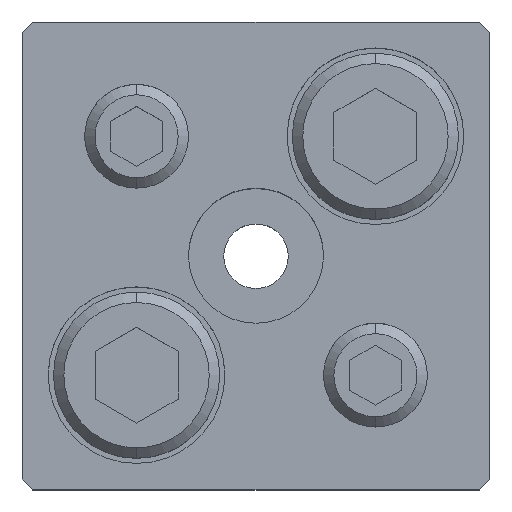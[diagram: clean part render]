
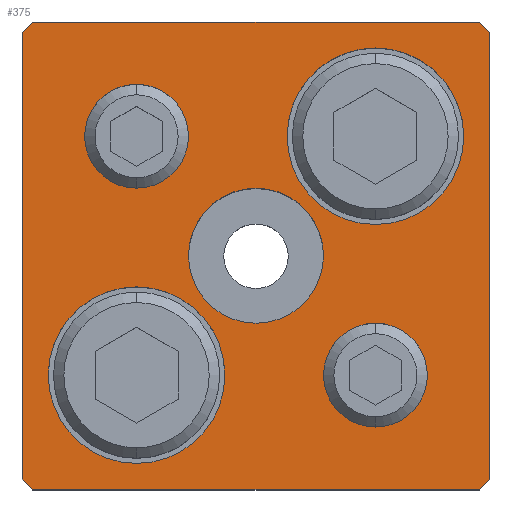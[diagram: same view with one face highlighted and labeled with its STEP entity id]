
A CAD part, top view. The second image highlights one B-rep face of the part: STEP entity #375.
In plain terms, the highlighted planar face has unit normal (0, 0, 1).
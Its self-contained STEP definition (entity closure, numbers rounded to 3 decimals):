
#139=PLANE('',#2873);
#201=FACE_BOUND('',#707,.T.);
#202=FACE_BOUND('',#708,.T.);
#203=FACE_BOUND('',#709,.T.);
#204=FACE_BOUND('',#710,.T.);
#205=FACE_BOUND('',#711,.T.);
#206=FACE_BOUND('',#712,.T.);
#375=ADVANCED_FACE('',(#201,#202,#203,#204,#205,#206),#139,.T.);
#707=EDGE_LOOP('',(#1261,#1262,#1263,#1264,#1265,#1266,#1267,#1268));
#708=EDGE_LOOP('',(#1269,#1270));
#709=EDGE_LOOP('',(#1271,#1272));
#710=EDGE_LOOP('',(#1273,#1274));
#711=EDGE_LOOP('',(#1275,#1276));
#712=EDGE_LOOP('',(#1277,#1278));
#872=CIRCLE('',#2831,5.);
#874=CIRCLE('',#2834,5.);
#876=CIRCLE('',#2837,5.);
#878=CIRCLE('',#2840,5.);
#896=CIRCLE('',#2867,8.5);
#897=CIRCLE('',#2868,8.5);
#898=CIRCLE('',#2869,8.5);
#899=CIRCLE('',#2870,8.5);
#900=CIRCLE('',#2871,6.5);
#901=CIRCLE('',#2872,6.5);
#1261=ORIENTED_EDGE('',*,*,#2078,.T.);
#1262=ORIENTED_EDGE('',*,*,#2079,.T.);
#1263=ORIENTED_EDGE('',*,*,#2080,.T.);
#1264=ORIENTED_EDGE('',*,*,#2081,.T.);
#1265=ORIENTED_EDGE('',*,*,#2082,.T.);
#1266=ORIENTED_EDGE('',*,*,#2083,.T.);
#1267=ORIENTED_EDGE('',*,*,#2084,.T.);
#1268=ORIENTED_EDGE('',*,*,#2085,.T.);
#1269=ORIENTED_EDGE('',*,*,#2086,.F.);
#1270=ORIENTED_EDGE('',*,*,#2087,.F.);
#1271=ORIENTED_EDGE('',*,*,#2088,.F.);
#1272=ORIENTED_EDGE('',*,*,#2089,.F.);
#1273=ORIENTED_EDGE('',*,*,#2052,.F.);
#1274=ORIENTED_EDGE('',*,*,#2048,.F.);
#1275=ORIENTED_EDGE('',*,*,#2046,.F.);
#1276=ORIENTED_EDGE('',*,*,#2042,.F.);
#1277=ORIENTED_EDGE('',*,*,#2090,.T.);
#1278=ORIENTED_EDGE('',*,*,#2091,.T.);
#1761=VERTEX_POINT('',#4141);
#1762=VERTEX_POINT('',#4142);
#1765=VERTEX_POINT('',#4153);
#1766=VERTEX_POINT('',#4154);
#1785=VERTEX_POINT('',#4213);
#1786=VERTEX_POINT('',#4214);
#1787=VERTEX_POINT('',#4216);
#1788=VERTEX_POINT('',#4218);
#1789=VERTEX_POINT('',#4220);
#1790=VERTEX_POINT('',#4222);
#1791=VERTEX_POINT('',#4224);
#1792=VERTEX_POINT('',#4226);
#1793=VERTEX_POINT('',#4229);
#1794=VERTEX_POINT('',#4230);
#1795=VERTEX_POINT('',#4233);
#1796=VERTEX_POINT('',#4234);
#1797=VERTEX_POINT('',#4237);
#1798=VERTEX_POINT('',#4238);
#2042=EDGE_CURVE('',#1761,#1762,#872,.T.);
#2046=EDGE_CURVE('',#1762,#1761,#874,.T.);
#2048=EDGE_CURVE('',#1765,#1766,#876,.T.);
#2052=EDGE_CURVE('',#1766,#1765,#878,.T.);
#2078=EDGE_CURVE('',#1785,#1786,#2360,.T.);
#2079=EDGE_CURVE('',#1786,#1787,#2361,.T.);
#2080=EDGE_CURVE('',#1787,#1788,#2362,.T.);
#2081=EDGE_CURVE('',#1788,#1789,#2363,.T.);
#2082=EDGE_CURVE('',#1789,#1790,#2364,.T.);
#2083=EDGE_CURVE('',#1790,#1791,#2365,.T.);
#2084=EDGE_CURVE('',#1791,#1792,#2366,.T.);
#2085=EDGE_CURVE('',#1792,#1785,#2367,.T.);
#2086=EDGE_CURVE('',#1793,#1794,#896,.T.);
#2087=EDGE_CURVE('',#1794,#1793,#897,.T.);
#2088=EDGE_CURVE('',#1795,#1796,#898,.T.);
#2089=EDGE_CURVE('',#1796,#1795,#899,.T.);
#2090=EDGE_CURVE('',#1797,#1798,#900,.T.);
#2091=EDGE_CURVE('',#1798,#1797,#901,.T.);
#2360=LINE('',#4212,#2580);
#2361=LINE('',#4215,#2581);
#2362=LINE('',#4217,#2582);
#2363=LINE('',#4219,#2583);
#2364=LINE('',#4221,#2584);
#2365=LINE('',#4223,#2585);
#2366=LINE('',#4225,#2586);
#2367=LINE('',#4227,#2587);
#2580=VECTOR('',#3399,1.);
#2581=VECTOR('',#3400,1.);
#2582=VECTOR('',#3401,1.);
#2583=VECTOR('',#3402,1.);
#2584=VECTOR('',#3403,1.);
#2585=VECTOR('',#3404,1.);
#2586=VECTOR('',#3405,1.);
#2587=VECTOR('',#3406,1.);
#2831=AXIS2_PLACEMENT_3D('',#4140,#3315,#3316);
#2834=AXIS2_PLACEMENT_3D('',#4149,#3323,#3324);
#2837=AXIS2_PLACEMENT_3D('',#4152,#3329,#3330);
#2840=AXIS2_PLACEMENT_3D('',#4161,#3337,#3338);
#2867=AXIS2_PLACEMENT_3D('',#4228,#3407,#3408);
#2868=AXIS2_PLACEMENT_3D('',#4231,#3409,#3410);
#2869=AXIS2_PLACEMENT_3D('',#4232,#3411,#3412);
#2870=AXIS2_PLACEMENT_3D('',#4235,#3413,#3414);
#2871=AXIS2_PLACEMENT_3D('',#4236,#3415,#3416);
#2872=AXIS2_PLACEMENT_3D('',#4239,#3417,#3418);
#2873=AXIS2_PLACEMENT_3D('',#4240,#3419,#3420);
#3315=DIRECTION('',(0.,0.,1.));
#3316=DIRECTION('',(1.,0.,0.));
#3323=DIRECTION('',(0.,0.,1.));
#3324=DIRECTION('',(-1.,0.,0.));
#3329=DIRECTION('',(0.,0.,1.));
#3330=DIRECTION('',(1.,0.,0.));
#3337=DIRECTION('',(0.,0.,1.));
#3338=DIRECTION('',(-1.,0.,0.));
#3399=DIRECTION('',(0.,1.,0.));
#3400=DIRECTION('',(-0.707,0.707,0.));
#3401=DIRECTION('',(-1.,0.,0.));
#3402=DIRECTION('',(-0.707,-0.707,0.));
#3403=DIRECTION('',(0.,-1.,0.));
#3404=DIRECTION('',(0.707,-0.707,0.));
#3405=DIRECTION('',(1.,0.,0.));
#3406=DIRECTION('',(0.707,0.707,0.));
#3407=DIRECTION('',(0.,0.,1.));
#3408=DIRECTION('',(1.,0.,0.));
#3409=DIRECTION('',(0.,0.,1.));
#3410=DIRECTION('',(-1.,0.,0.));
#3411=DIRECTION('',(0.,0.,1.));
#3412=DIRECTION('',(1.,0.,0.));
#3413=DIRECTION('',(0.,0.,1.));
#3414=DIRECTION('',(-1.,0.,0.));
#3415=DIRECTION('',(0.,0.,-1.));
#3416=DIRECTION('',(-1.,0.,0.));
#3417=DIRECTION('',(0.,0.,-1.));
#3418=DIRECTION('',(1.,0.,0.));
#3419=DIRECTION('',(0.,0.,1.));
#3420=DIRECTION('',(0.,-1.,0.));
#4140=CARTESIAN_POINT('',(11.5,-11.5,35.));
#4141=CARTESIAN_POINT('',(11.5,-6.5,35.));
#4142=CARTESIAN_POINT('',(11.5,-16.5,35.));
#4149=CARTESIAN_POINT('',(11.5,-11.5,35.));
#4152=CARTESIAN_POINT('',(-11.5,11.5,35.));
#4153=CARTESIAN_POINT('',(-11.5,16.5,35.));
#4154=CARTESIAN_POINT('',(-11.5,6.5,35.));
#4161=CARTESIAN_POINT('',(-11.5,11.5,35.));
#4212=CARTESIAN_POINT('',(22.5,21.5,35.));
#4213=CARTESIAN_POINT('',(22.5,-21.5,35.));
#4214=CARTESIAN_POINT('',(22.5,21.5,35.));
#4215=CARTESIAN_POINT('',(21.5,22.5,35.));
#4216=CARTESIAN_POINT('',(21.5,22.5,35.));
#4217=CARTESIAN_POINT('',(-21.5,22.5,35.));
#4218=CARTESIAN_POINT('',(-21.5,22.5,35.));
#4219=CARTESIAN_POINT('',(-22.5,21.5,35.));
#4220=CARTESIAN_POINT('',(-22.5,21.5,35.));
#4221=CARTESIAN_POINT('',(-22.5,-21.5,35.));
#4222=CARTESIAN_POINT('',(-22.5,-21.5,35.));
#4223=CARTESIAN_POINT('',(-21.5,-22.5,35.));
#4224=CARTESIAN_POINT('',(-21.5,-22.5,35.));
#4225=CARTESIAN_POINT('',(21.5,-22.5,35.));
#4226=CARTESIAN_POINT('',(21.5,-22.5,35.));
#4227=CARTESIAN_POINT('',(22.5,-21.5,35.));
#4228=CARTESIAN_POINT('',(-11.5,-11.5,35.));
#4229=CARTESIAN_POINT('',(-11.5,-3.,35.));
#4230=CARTESIAN_POINT('',(-11.5,-20.,35.));
#4231=CARTESIAN_POINT('',(-11.5,-11.5,35.));
#4232=CARTESIAN_POINT('',(11.5,11.5,35.));
#4233=CARTESIAN_POINT('',(11.5,20.,35.));
#4234=CARTESIAN_POINT('',(11.5,3.,35.));
#4235=CARTESIAN_POINT('',(11.5,11.5,35.));
#4236=CARTESIAN_POINT('',(0.,0.,35.));
#4237=CARTESIAN_POINT('',(0.,6.5,35.));
#4238=CARTESIAN_POINT('',(0.,-6.5,35.));
#4239=CARTESIAN_POINT('',(0.,0.,35.));
#4240=CARTESIAN_POINT('',(22.5,-21.5,35.));
